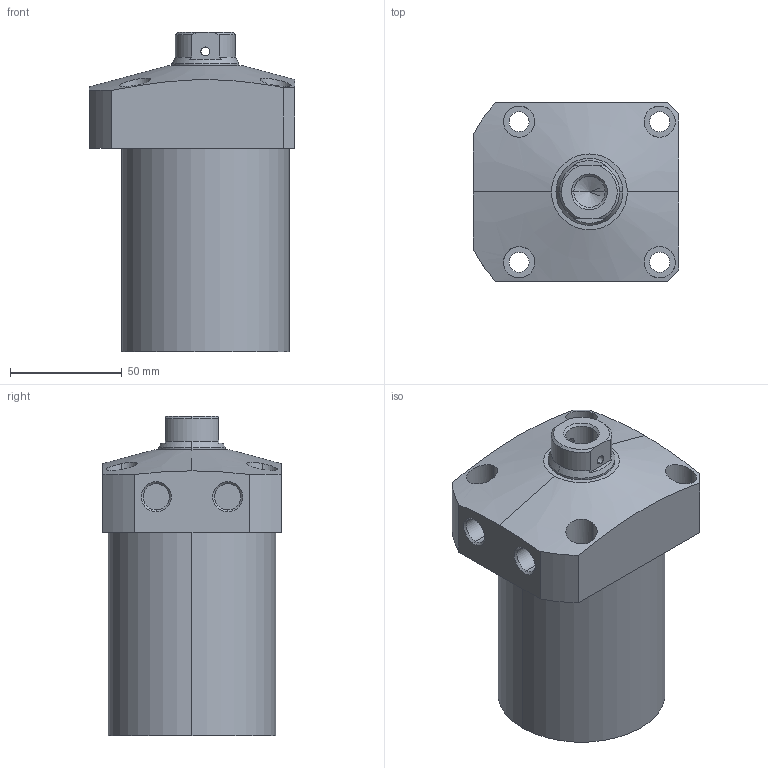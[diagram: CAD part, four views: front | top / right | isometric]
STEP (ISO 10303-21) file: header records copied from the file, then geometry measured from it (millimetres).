
FILE_DESCRIPTION (( 'STEP AP203' ), '1' );
FILE_NAME ('CLL-075CB-075.STEP', '2019-12-20T07:42:14', ( '' ), ( '' ), 'SwSTEP 2.0', 'SolidWorks 2015', '' );
FILE_SCHEMA (( 'CONFIG_CONTROL_DESIGN' ));
Length unit declared in the file: millimetre
Products named in the file (1): CLL-075CB-075
Bounding box: 92 x 80 x 143 mm (x, y, z)
Volume: 624596.4 mm3; surface area: 52795.9 mm2
Topology: 1 solids, 1 shells, 76 faces, 181 edges, 116 vertices
Faces by surface type: cylinder 39, plane 22, cone 15
Entity records: 2809 total; most frequent: CARTESIAN_POINT 932, DIRECTION 386, ORIENTED_EDGE 358, EDGE_CURVE 179, AXIS2_PLACEMENT_3D 158, VERTEX_POINT 116, EDGE_LOOP 99, CIRCLE 81
